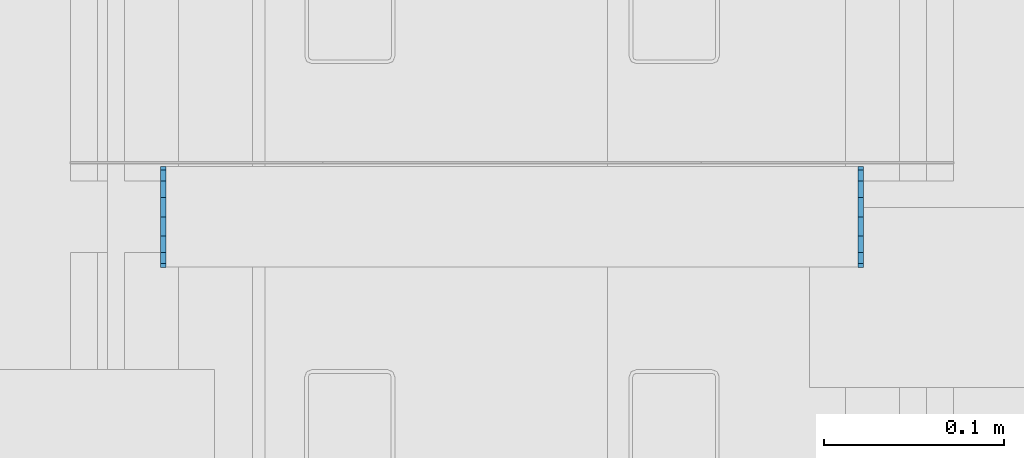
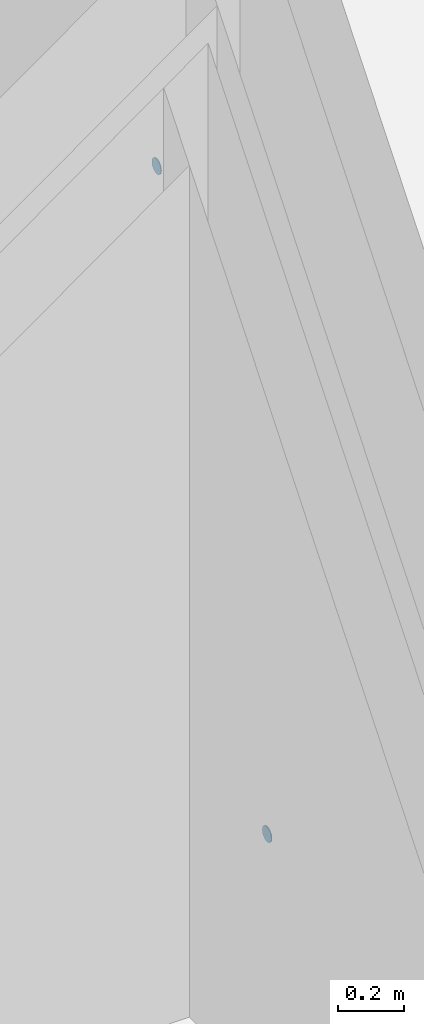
# One storey, part 48 of 230: 2 beams.
"""IFC4X3_ADD2 building model written with IfcOpenShell, lengths in millimetres."""

from ifc_helpers import new_model, si_unit, direction, frame, origin_with_axes, place, context, subcontext, project, spatial, indexed_curve, outline, extrude, material, element, save


model = new_model("IFC4X3_ADD2")

# Units and contexts
model_context = context("Model", 3, precision=1e-05, world=origin_with_axes(), true_north=direction((0.0, 1.0)))
body_context = subcontext(model_context, "Body", "Model", "MODEL_VIEW")
ifc_project = project(units=[si_unit("LENGTHUNIT", "METRE", prefix="MILLI"), si_unit("AREAUNIT", "SQUARE_METRE"), si_unit("VOLUMEUNIT", "CUBIC_METRE"), si_unit("PLANEANGLEUNIT", "RADIAN"), si_unit("TIMEUNIT", "SECOND"), si_unit("MASSUNIT", "GRAM")], contexts=[model_context])

# Site, building, storey
site_placement = place(None, origin_with_axes())
site = spatial("IfcSite", under=ifc_project, at=site_placement, Name="Site", CompositionType="ELEMENT")
building_placement = place(site_placement, origin_with_axes())
building = spatial("IfcBuilding", under=site, at=building_placement, Name="IFC Building Story")
storey_placement = place(building_placement, origin_with_axes())
storey = spatial("IfcBuildingStorey", under=building, at=storey_placement, Name="ETAGE 00 (0)", Elevation=0.0)

# Beams
ifc_material = material(Name="STEEL/Accessory 22919")
beam_1_placement = place(storey_placement, frame((40161.189, 7324.838, 110.0), z_axis=(-1.0, 0.0, 0.0), x_axis=(0.0, 0.5555702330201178, 0.8314696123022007)))
element("IfcBeam", 1, at=beam_1_placement, inside=storey, material=ifc_material, Name="TA4", ObjectType="D56", context=body_context, shape_type="SweptSolid", body=[
    extrude(outline(indexed_curve([(23.28114914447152, 15.55596652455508), (27.46198785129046, 5.462529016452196), (27.46198785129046, -5.462529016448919), (23.28114914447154, -15.55596652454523), (15.55596652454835, -23.28114914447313), (5.462529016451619, -27.46198785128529), (-5.462529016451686, -27.46198785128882), (-15.55596652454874, -23.28114914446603), (-23.2811491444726, -15.55596652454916), (-27.46198785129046, -5.462529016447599), (-27.46198785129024, 5.462529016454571), (-23.28114914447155, 15.55596652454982), (-15.55596652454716, 23.28114914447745), (-5.462529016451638, 27.46198785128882), (5.462529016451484, 27.46198785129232), (15.55596652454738, 23.28114914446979), (23.28114914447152, 15.55596652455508)])), origin_with_axes(), (0.0, 0.0, 1.0), 3.0),
])
beam_2_placement = place(storey_placement, frame((39774.18900000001, 7324.838, 2720.0), z_axis=(-1.0, 0.0, 0.0), x_axis=(0.0, 0.1950903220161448, 0.9807852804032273)))
element("IfcBeam", 2, at=beam_2_placement, inside=storey, material=ifc_material, Name="TA4", ObjectType="D56", context=body_context, shape_type="SweptSolid", body=[
    extrude(outline(indexed_curve([(23.28114914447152, 15.55596652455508), (27.46198785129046, 5.462529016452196), (27.46198785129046, -5.462529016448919), (23.28114914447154, -15.55596652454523), (15.55596652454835, -23.28114914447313), (5.462529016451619, -27.46198785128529), (-5.462529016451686, -27.46198785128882), (-15.55596652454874, -23.28114914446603), (-23.2811491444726, -15.55596652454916), (-27.46198785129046, -5.462529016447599), (-27.46198785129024, 5.462529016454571), (-23.28114914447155, 15.55596652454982), (-15.55596652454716, 23.28114914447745), (-5.462529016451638, 27.46198785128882), (5.462529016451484, 27.46198785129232), (15.55596652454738, 23.28114914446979), (23.28114914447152, 15.55596652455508)])), origin_with_axes(), (0.0, 0.0, 1.0), 3.000000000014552),
])

save(model, "model.ifc")
